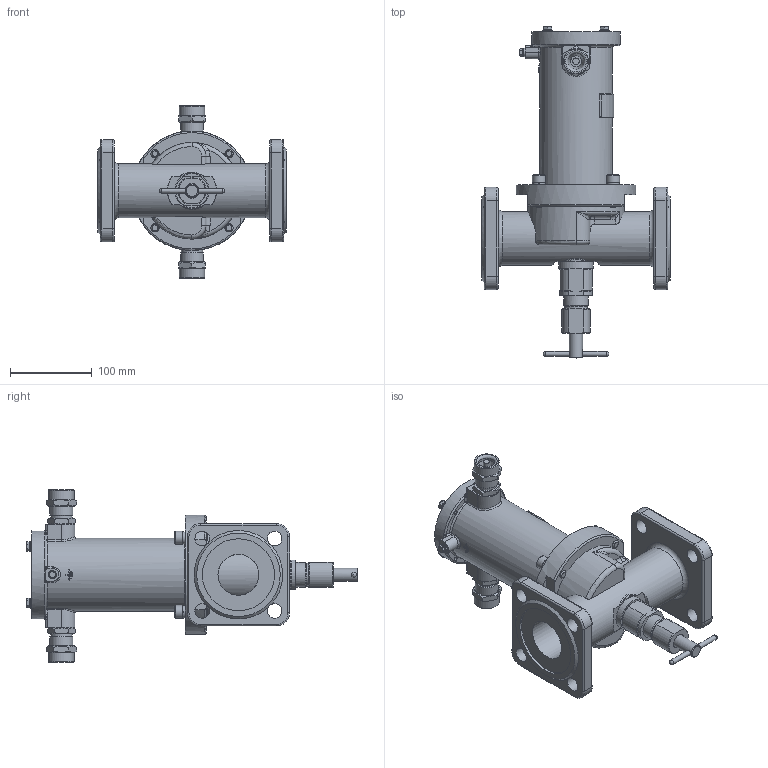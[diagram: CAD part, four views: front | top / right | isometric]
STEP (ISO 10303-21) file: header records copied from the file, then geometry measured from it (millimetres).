
FILE_DESCRIPTION(('STEP AP203'), '1');
FILE_NAME('捇迕 DN50PN25.stp', '2018-11-19T06:31:20', ('u'), ($), 'ASCON STEP Converter 1.3', 'Kompas 3D', '');
FILE_SCHEMA(('CONFIG_CONTROL_DESIGN','SUPPORT_RESOURCE_SCHEMA'));
Length unit declared in the file: millimetre
Products named in the file (1): 1
Bounding box: 230 x 405.5 x 211 mm (x, y, z)
Volume: 1630463.3 mm3; surface area: 397617.8 mm2
Topology: 2 solids, 18 shells, 1955 faces, 5207 edges, 3367 vertices
Faces by surface type: cylinder 1000, plane 723, cone 125, torus 48, bspline 39, extrusion 16, sphere 4
Full cylindrical faces by diameter (mm): 3.5 x2, 4.134 x1, 4.917 x4, 5 x1, 6 x10, 6.5 x4, 8 x8, 10 x9, 11 x4, 12 x4, 13 x2, 16 x6, 17 x2, 18 x9, 20 x4, 20.9 x1, 22 x2, 22.376 x2, 23 x1, 23.5 x2, 24 x2, 24.5 x2, 26 x4, 26.376 x2, 27.8 x1, 28 x3, 28.5 x2, 30 x2, 31 x2, 42 x1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
Entity records: 75829 total; most frequent: CARTESIAN_POINT 26002, DIRECTION 10827, ORIENTED_EDGE 10360, EDGE_CURVE 5180, AXIS2_PLACEMENT_3D 4154, VERTEX_POINT 3367, VECTOR 2519, LINE 2503
